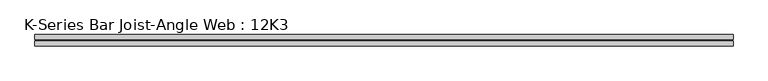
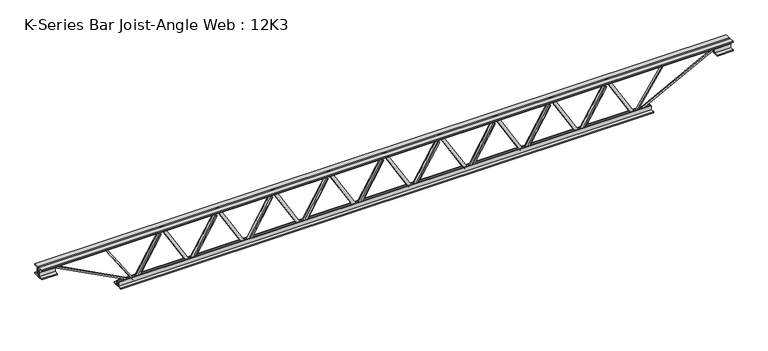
"""IFC4 building model written with IfcOpenShell, lengths in millimetres: beam geometry, K-Series Bar Joist-Angle Web : 12K3."""

import ifcopenshell
import ifcopenshell.guid

model = None  # the IFC model being written
_history = None  # IfcOwnerHistory: only IFC2X3 demands one
_inside = {}  # id of a spatial element -> (the spatial element, [elements in it])
_under = {}  # id of a project, library or spatial element -> (it, [spatial elements below it])
_declared = {}  # id of a project -> (the project, [libraries it declares])
_typed = {}  # id of a type object -> (the type object, [elements of that type])
_made_of = {}  # id of a material, layer set ... -> (it, [elements and type objects made of it])


def new_model(schema):
    """Start an empty IFC model of exactly this schema.

    Asked for "IFC4X3", IfcOpenShell would pick the latest addendum, in which some entities
    have other attributes; the version numbers below select the first issue.
    IFC2X3 requires an IfcOwnerHistory on every rooted entity: one is made here for all.
    """
    global model, _history
    if schema == "IFC4X3":
        model = ifcopenshell.file(schema_version=(4, 3, 0, 0))
    else:
        model = ifcopenshell.file(schema=schema)
    _inside.clear()
    _under.clear()
    _declared.clear()
    _typed.clear()
    _made_of.clear()
    _history = None
    if model.schema == "IFC2X3":
        org = make("IfcOrganization", Name="unknown")
        user = make(
            "IfcPersonAndOrganization",
            ThePerson=make("IfcPerson", FamilyName="unknown"),
            TheOrganization=org,
        )
        app = make(
            "IfcApplication",
            ApplicationDeveloper=org,
            Version="unknown",
            ApplicationFullName="unknown",
            ApplicationIdentifier="unknown",
        )
        _history = make(
            "IfcOwnerHistory",
            OwningUser=user,
            OwningApplication=app,
            ChangeAction="ADDED",
            CreationDate=0,
        )
    return model


def make(cls, **values):
    """One entity of the class cls with the attributes given. An attribute that is None is left unset."""
    return model.create_entity(
        cls, **{name: value for name, value in values.items() if value is not None}
    )


def rooted(cls, **values):
    """An entity with a GlobalId (a new one), such as an element, a storey or a relation."""
    return make(cls, GlobalId=ifcopenshell.guid.new(), OwnerHistory=_history, **values)


def si_unit(unit_type, name, prefix=None):
    """IfcSIUnit, for example si_unit("LENGTHUNIT", "METRE", prefix="MILLI")."""
    return make("IfcSIUnit", UnitType=unit_type, Prefix=prefix, Name=name)


def assignment(units):
    """IfcUnitAssignment: the units of a project."""
    return None if units is None else make("IfcUnitAssignment", Units=units)


def point(xyz):
    """IfcCartesianPoint."""
    return None if xyz is None else make("IfcCartesianPoint", Coordinates=xyz)


def direction(xyz):
    """IfcDirection."""
    return None if xyz is None else make("IfcDirection", DirectionRatios=xyz)


def frame(location, z_axis=None, x_axis=None):
    """IfcAxis2Placement3D, a coordinate frame: its origin and axes. An axis left out is left unset."""
    return make(
        "IfcAxis2Placement3D",
        Location=point(location),
        Axis=direction(z_axis),
        RefDirection=direction(x_axis),
    )


def origin():
    """The frame at (0, 0, 0) with its axes left unset."""
    return frame((0.0, 0.0, 0.0))


def place(relative_to, where):
    """IfcLocalPlacement: puts the frame where relative to a parent placement (None: the world)."""
    return make(
        "IfcLocalPlacement", PlacementRelTo=relative_to, RelativePlacement=where
    )


def context(
    kind, dimensions, precision=None, world=None, true_north=None, identifier=None
):
    """IfcGeometricRepresentationContext, for example the 3D "Model" context."""
    return make(
        "IfcGeometricRepresentationContext",
        ContextIdentifier=identifier,
        ContextType=kind,
        CoordinateSpaceDimension=dimensions,
        Precision=precision,
        WorldCoordinateSystem=world,
        TrueNorth=true_north,
    )


def project(units=None, contexts=None):
    """IfcProject with its units and contexts."""
    return rooted(
        "IfcProject",
        Name="project",
        RepresentationContexts=contexts,
        UnitsInContext=assignment(units),
    )


def spatial(cls, under=None, at=None, **own):
    """A site, building, storey or space (cls), placed at a placement, below another one or the project."""
    s = rooted(cls, ObjectPlacement=at, **own)
    if under is not None:
        _under.setdefault(under.id(), (under, []))[1].append(s)
    return s


def polyline(points):
    """IfcPolyline through the points."""
    return make("IfcPolyline", Points=[point(p) for p in points])


def outline(outer, holes=None, kind="AREA"):
    """IfcArbitraryClosedProfileDef: a profile drawn as a closed curve; with holes, ...WithVoids."""
    if holes is None:
        return make("IfcArbitraryClosedProfileDef", ProfileType=kind, OuterCurve=outer)
    return make(
        "IfcArbitraryProfileDefWithVoids",
        ProfileType=kind,
        OuterCurve=outer,
        InnerCurves=holes,
    )


def extrude(swept, where, along, depth):
    """IfcExtrudedAreaSolid: the profile swept, set in the frame where, extruded along a direction by depth."""
    return make(
        "IfcExtrudedAreaSolid",
        SweptArea=swept,
        Position=where,
        ExtrudedDirection=direction(along),
        Depth=depth,
    )


def faces_of(points, faces, orient=None, outer=None):
    """IfcFace entities. A face is a list of loops; a loop is a list of indices into points, from 0.

    orient and outer hold one flag for each loop. By default every Orientation is true, the
    first loop of a face is its IfcFaceOuterBound and the others are IfcFaceBound.
    """
    made = []
    for i, loops in enumerate(faces):
        bounds = []
        for j, loop in enumerate(loops):
            is_outer = j == 0 if outer is None else outer[i][j]
            bounds.append(
                make(
                    "IfcFaceOuterBound" if is_outer else "IfcFaceBound",
                    Bound=make("IfcPolyLoop", Polygon=[points[k] for k in loop]),
                    Orientation=True if orient is None else orient[i][j],
                )
            )
        made.append(make("IfcFace", Bounds=bounds))
    return made


def faceted_brep(points, faces, orient=None, outer=None, voids=None):
    """IfcFacetedBrep: a solid bounded by flat faces; with voids (closed shells), ...WithVoids."""
    shared = [point(p) for p in points]
    hull = make("IfcClosedShell", CfsFaces=faces_of(shared, faces, orient, outer))
    if voids is None:
        return make("IfcFacetedBrep", Outer=hull)
    return make(
        "IfcFacetedBrepWithVoids",
        Outer=hull,
        Voids=[
            make(cls, CfsFaces=faces_of(shared, fs, o, b)) for cls, fs, o, b in voids
        ],
    )


def shape(context_of_items, identifier, shape_type, items):
    """IfcShapeRepresentation: the items that make up one representation, for example the "Body"."""
    return make(
        "IfcShapeRepresentation",
        ContextOfItems=context_of_items,
        RepresentationIdentifier=identifier,
        RepresentationType=shape_type,
        Items=items,
    )


def source(mapping_origin, context_of_items, identifier, shape_type, items):
    """IfcRepresentationMap: a shape defined once, which mapped items show again and again."""
    return make(
        "IfcRepresentationMap",
        MappingOrigin=mapping_origin,
        MappedRepresentation=shape(context_of_items, identifier, shape_type, items),
    )


def transform(
    local_origin,
    x_axis=None,
    y_axis=None,
    z_axis=None,
    scale=None,
    scale2=None,
    scale3=None,
    uniform=True,
):
    """IfcCartesianTransformationOperator3D, or its non-uniform kind. x_axis, y_axis, z_axis: its Axis1, 2, 3."""
    if uniform:
        return make(
            "IfcCartesianTransformationOperator3D",
            Axis1=direction(x_axis),
            Axis2=direction(y_axis),
            LocalOrigin=point(local_origin),
            Scale=scale,
            Axis3=direction(z_axis),
        )
    return make(
        "IfcCartesianTransformationOperator3DnonUniform",
        Axis1=direction(x_axis),
        Axis2=direction(y_axis),
        LocalOrigin=point(local_origin),
        Scale=scale,
        Axis3=direction(z_axis),
        Scale2=scale2,
        Scale3=scale3,
    )


def mapped(mapping_source, mapping_target):
    """IfcMappedItem: shows the shape of a source again, moved by a transform."""
    return make(
        "IfcMappedItem", MappingSource=mapping_source, MappingTarget=mapping_target
    )


def made_of(thing, what):
    """Note that an element or type object is made of a material, layer set ...; save() writes the relation."""
    if what is not None:
        _made_of.setdefault(what.id(), (what, []))[1].append(thing)
    return thing


def element(
    cls,
    number,
    at=None,
    inside=None,
    cuts=None,
    type_object=None,
    material=None,
    context=None,
    identifier="Body",
    shape_type=None,
    held_by="IfcProductDefinitionShape",
    body=None,
    shapes=None,
    **own,
):
    """One element of the class cls, such as IfcWall. Its Tag is "e" and its number.

    at: its placement. inside: the storey or other place that contains it. cuts: it is an
    opening in that element (IfcRelVoidsElement). A single representation is given by context,
    identifier, shape_type and body (its items); several are given by shapes. held_by: the class
    of the entity that holds the representations. save() writes the other relations.
    """
    e = rooted(cls, Tag="e%d" % number, ObjectPlacement=at, **own)
    if body is not None:
        shapes = [shape(context, identifier, shape_type, body)]
    if shapes is not None:
        e.Representation = make(held_by, Representations=shapes)
    if inside is not None:
        _inside.setdefault(inside.id(), (inside, []))[1].append(e)
    if cuts is not None:
        rooted(
            "IfcRelVoidsElement", RelatingBuildingElement=cuts, RelatedOpeningElement=e
        )
    if type_object is not None:
        _typed.setdefault(type_object.id(), (type_object, []))[1].append(e)
    return made_of(e, material)


def aggregate(whole, parts):
    """IfcRelAggregates: a whole, such as a stair, and the parts it consists of."""
    return rooted("IfcRelAggregates", RelatingObject=whole, RelatedObjects=parts)


def save(model, path):
    """Write the relations noted so far, then the file.

    IfcRelAggregates (storeys below a building ...), IfcRelContainedInSpatialStructure (elements
    in a storey), IfcRelDefinesByType, IfcRelAssociatesMaterial and IfcRelDeclares: one each for
    every whole, place, type object, material and project.
    """
    for whole, parts in _under.values():
        aggregate(whole, parts)
    for where, things in _inside.values():
        rooted(
            "IfcRelContainedInSpatialStructure",
            RelatedElements=things,
            RelatingStructure=where,
        )
    for kind, things in _typed.values():
        rooted("IfcRelDefinesByType", RelatedObjects=things, RelatingType=kind)
    for what, things in _made_of.values():
        rooted("IfcRelAssociatesMaterial", RelatedObjects=things, RelatingMaterial=what)
    for by, libraries in _declared.values():
        rooted("IfcRelDeclares", RelatingContext=by, RelatedDefinitions=libraries)
    model.write(path)


def k_series_bar_joist_angle_web_12k3_e2e2536a(model_context):
    return source(origin(), model_context, "Body", "SolidModel", [
        extrude(outline(polyline([(-4.7625, 4.7625), (-4.7625, 0.0), (-17.4625, 0.0), (-17.4625, 4.7625), (-4.7625, 4.7625)])), frame((1212.1772472, 0.0, -114.3), z_axis=(-0.5087293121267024, 0.0, 0.8609265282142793), x_axis=(0.0, -1.0, 0.0)), (0.0, 0.0, 1.0), 265.5278848),
        extrude(outline(polyline([(-149.225, 1244.6), (-130.175, 1244.6), (-130.175, 1243.6852528), (149.225, 1078.5852528), (149.225, 1060.45), (130.175, 1060.45), (130.175, 1067.7147472), (-149.225, 1232.8147472), (-149.225, 1244.6)])), frame((0.0, 0.0, 0.0), z_axis=(0.0, 1.0, 0.0), x_axis=(0.0, 0.0, 1.0)), (0.0, 0.0, 1.0), 4.7625),
        faceted_brep([(889.0, 0.0, -130.175), (889.0, 0.0, -149.225), (889.0, -4.7625, -149.225), (889.0, -4.7625, -130.175), (889.9147472, 0.0, -130.175), (1055.0147472, 0.0, 149.225), (1073.15, 0.0, 149.225), (1073.15, 0.0, 130.175), (1065.8852528, 0.0, 130.175), (900.7852528, 0.0, -149.225), (900.7852528, -4.7625, -149.225), (921.4227528, -4.7625, -114.3), (917.3225902, -4.7625, -111.8771767), (1052.4044084, -4.7625, 116.7228233), (1056.504571, -4.7625, 114.3), (1065.8852528, -4.7625, 130.175), (1073.15, -4.7625, 130.175), (1073.15, -4.7625, 149.225), (1055.0147472, -4.7625, 149.225), (889.9147472, -4.7625, -130.175), (1056.504571, -17.4625, 114.3), (921.4227528, -17.4625, -114.3), (917.3225902, -17.4625, -111.8771767), (1052.4044084, -17.4625, 116.7228233)], [[[0, 1, 2, 3]], [[1, 0, 4, 5, 6, 7, 8, 9]], [[2, 1, 9, 10]], [[3, 2, 10, 11, 12, 13, 14, 15, 16, 17, 18, 19]], [[0, 3, 19, 4]], [[9, 8, 15, 14, 20, 21, 11, 10]], [[5, 4, 19, 18]], [[7, 6, 17, 16]], [[8, 7, 16, 15]], [[6, 5, 18, 17]], [[21, 22, 12, 11]], [[20, 14, 13, 23]], [[22, 21, 20, 23]], [[12, 22, 23, 13]]]),
        extrude(outline(polyline([(-4.7625, 4.7625), (-4.7625, 0.0), (-17.4625, 0.0), (-17.4625, 4.7625), (-4.7625, 4.7625)])), frame((856.5772472, 0.0, -114.3), z_axis=(-0.5087293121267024, 0.0, 0.8609265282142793), x_axis=(0.0, -1.0, 0.0)), (0.0, 0.0, 1.0), 265.5278848),
        extrude(outline(polyline([(-149.225, 889.0), (-130.175, 889.0), (-130.175, 888.0852528), (149.225, 722.9852528), (149.225, 704.85), (130.175, 704.85), (130.175, 712.1147472), (-149.225, 877.2147472), (-149.225, 889.0)])), frame((0.0, 0.0, 0.0), z_axis=(0.0, 1.0, 0.0), x_axis=(0.0, 0.0, 1.0)), (0.0, 0.0, 1.0), 4.7625),
        faceted_brep([(533.4, 0.0, -130.175), (533.4, 0.0, -149.225), (533.4, -4.7625, -149.225), (533.4, -4.7625, -130.175), (534.3147472, 0.0, -130.175), (699.4147472, 0.0, 149.225), (717.55, 0.0, 149.225), (717.55, 0.0, 130.175), (710.2852528, 0.0, 130.175), (545.1852528, 0.0, -149.225), (545.1852528, -4.7625, -149.225), (565.8227528, -4.7625, -114.3), (561.7225902, -4.7625, -111.8771767), (696.8044084, -4.7625, 116.7228233), (700.904571, -4.7625, 114.3), (710.2852528, -4.7625, 130.175), (717.55, -4.7625, 130.175), (717.55, -4.7625, 149.225), (699.4147472, -4.7625, 149.225), (534.3147472, -4.7625, -130.175), (700.904571, -17.4625, 114.3), (565.8227528, -17.4625, -114.3), (561.7225902, -17.4625, -111.8771767), (696.8044084, -17.4625, 116.7228233)], [[[0, 1, 2, 3]], [[1, 0, 4, 5, 6, 7, 8, 9]], [[2, 1, 9, 10]], [[3, 2, 10, 11, 12, 13, 14, 15, 16, 17, 18, 19]], [[0, 3, 19, 4]], [[9, 8, 15, 14, 20, 21, 11, 10]], [[5, 4, 19, 18]], [[7, 6, 17, 16]], [[8, 7, 16, 15]], [[6, 5, 18, 17]], [[21, 22, 12, 11]], [[20, 14, 13, 23]], [[22, 21, 20, 23]], [[12, 22, 23, 13]]]),
        extrude(outline(polyline([(-4.7625, 4.7625), (-4.7625, 0.0), (-17.4625, 0.0), (-17.4625, 4.7625), (-4.7625, 4.7625)])), frame((500.9772472, 0.0, -114.3), z_axis=(-0.5087293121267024, 0.0, 0.8609265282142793), x_axis=(0.0, -1.0, 0.0)), (0.0, 0.0, 1.0), 265.5278848),
        extrude(outline(polyline([(-149.225, 533.4), (-130.175, 533.4), (-130.175, 532.4852528), (149.225, 367.3852528), (149.225, 349.25), (130.175, 349.25), (130.175, 356.5147472), (-149.225, 521.6147472), (-149.225, 533.4)])), frame((0.0, 0.0, 0.0), z_axis=(0.0, 1.0, 0.0), x_axis=(0.0, 0.0, 1.0)), (0.0, 0.0, 1.0), 4.7625),
        faceted_brep([(177.8, 0.0, -130.175), (177.8, 0.0, -149.225), (177.8, -4.7625, -149.225), (177.8, -4.7625, -130.175), (178.7147472, 0.0, -130.175), (343.8147472, 0.0, 149.225), (361.95, 0.0, 149.225), (361.95, 0.0, 130.175), (354.6852528, 0.0, 130.175), (189.5852528, 0.0, -149.225), (189.5852528, -4.7625, -149.225), (210.2227528, -4.7625, -114.3), (206.1225902, -4.7625, -111.8771767), (341.2044084, -4.7625, 116.7228233), (345.304571, -4.7625, 114.3), (354.6852528, -4.7625, 130.175), (361.95, -4.7625, 130.175), (361.95, -4.7625, 149.225), (343.8147472, -4.7625, 149.225), (178.7147472, -4.7625, -130.175), (345.304571, -17.4625, 114.3), (210.2227528, -17.4625, -114.3), (206.1225902, -17.4625, -111.8771767), (341.2044084, -17.4625, 116.7228233)], [[[0, 1, 2, 3]], [[1, 0, 4, 5, 6, 7, 8, 9]], [[2, 1, 9, 10]], [[3, 2, 10, 11, 12, 13, 14, 15, 16, 17, 18, 19]], [[0, 3, 19, 4]], [[9, 8, 15, 14, 20, 21, 11, 10]], [[5, 4, 19, 18]], [[7, 6, 17, 16]], [[8, 7, 16, 15]], [[6, 5, 18, 17]], [[21, 22, 12, 11]], [[20, 14, 13, 23]], [[22, 21, 20, 23]], [[12, 22, 23, 13]]]),
        extrude(outline(polyline([(-4.7625, 4.7625), (-4.7625, 0.0), (-17.4625, 0.0), (-17.4625, 4.7625), (-4.7625, 4.7625)])), frame((145.3772472, 0.0, -114.3), z_axis=(-0.5087293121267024, 0.0, 0.8609265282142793), x_axis=(0.0, -1.0, 0.0)), (0.0, 0.0, 1.0), 265.5278848),
        extrude(outline(polyline([(-149.225, 177.8), (-130.175, 177.8), (-130.175, 176.8852528), (149.225, 11.7852528), (149.225, -6.35), (130.175, -6.35), (130.175, 0.9147472), (-149.225, 166.0147472), (-149.225, 177.8)])), frame((0.0, 0.0, 0.0), z_axis=(0.0, 1.0, 0.0), x_axis=(0.0, 0.0, 1.0)), (0.0, 0.0, 1.0), 4.7625),
        faceted_brep([(-177.8, 0.0, -130.175), (-177.8, 0.0, -149.225), (-177.8, -4.7625, -149.225), (-177.8, -4.7625, -130.175), (-176.8852528, 0.0, -130.175), (-11.7852528, 0.0, 149.225), (6.35, 0.0, 149.225), (6.35, 0.0, 130.175), (-0.9147472, 0.0, 130.175), (-166.0147472, 0.0, -149.225), (-166.0147472, -4.7625, -149.225), (-145.3772472, -4.7625, -114.3), (-149.4774098, -4.7625, -111.8771767), (-14.3955916, -4.7625, 116.7228233), (-10.295429, -4.7625, 114.3), (-0.9147472, -4.7625, 130.175), (6.35, -4.7625, 130.175), (6.35, -4.7625, 149.225), (-11.7852528, -4.7625, 149.225), (-176.8852528, -4.7625, -130.175), (-10.295429, -17.4625, 114.3), (-145.3772472, -17.4625, -114.3), (-149.4774098, -17.4625, -111.8771767), (-14.3955916, -17.4625, 116.7228233)], [[[0, 1, 2, 3]], [[1, 0, 4, 5, 6, 7, 8, 9]], [[2, 1, 9, 10]], [[3, 2, 10, 11, 12, 13, 14, 15, 16, 17, 18, 19]], [[0, 3, 19, 4]], [[9, 8, 15, 14, 20, 21, 11, 10]], [[5, 4, 19, 18]], [[7, 6, 17, 16]], [[8, 7, 16, 15]], [[6, 5, 18, 17]], [[21, 22, 12, 11]], [[20, 14, 13, 23]], [[22, 21, 20, 23]], [[12, 22, 23, 13]]]),
        extrude(outline(polyline([(-4.7625, 4.7625), (-4.7625, 0.0), (-17.4625, 0.0), (-17.4625, 4.7625), (-4.7625, 4.7625)])), frame((-210.2227528, 0.0, -114.3), z_axis=(-0.5087293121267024, 0.0, 0.8609265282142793), x_axis=(0.0, -1.0, 0.0)), (0.0, 0.0, 1.0), 265.5278848),
        extrude(outline(polyline([(-149.225, -177.8), (-130.175, -177.8), (-130.175, -178.7147472), (149.225, -343.8147472), (149.225, -361.95), (130.175, -361.95), (130.175, -354.6852528), (-149.225, -189.5852528), (-149.225, -177.8)])), frame((0.0, 0.0, 0.0), z_axis=(0.0, 1.0, 0.0), x_axis=(0.0, 0.0, 1.0)), (0.0, 0.0, 1.0), 4.7625),
        faceted_brep([(-533.4, 0.0, -130.175), (-533.4, 0.0, -149.225), (-533.4, -4.7625, -149.225), (-533.4, -4.7625, -130.175), (-532.4852528, 0.0, -130.175), (-367.3852528, 0.0, 149.225), (-349.25, 0.0, 149.225), (-349.25, 0.0, 130.175), (-356.5147472, 0.0, 130.175), (-521.6147472, 0.0, -149.225), (-521.6147472, -4.7625, -149.225), (-500.9772472, -4.7625, -114.3), (-505.0774098, -4.7625, -111.8771767), (-369.9955916, -4.7625, 116.7228233), (-365.895429, -4.7625, 114.3), (-356.5147472, -4.7625, 130.175), (-349.25, -4.7625, 130.175), (-349.25, -4.7625, 149.225), (-367.3852528, -4.7625, 149.225), (-532.4852528, -4.7625, -130.175), (-365.895429, -17.4625, 114.3), (-500.9772472, -17.4625, -114.3), (-505.0774098, -17.4625, -111.8771767), (-369.9955916, -17.4625, 116.7228233)], [[[0, 1, 2, 3]], [[1, 0, 4, 5, 6, 7, 8, 9]], [[2, 1, 9, 10]], [[3, 2, 10, 11, 12, 13, 14, 15, 16, 17, 18, 19]], [[0, 3, 19, 4]], [[9, 8, 15, 14, 20, 21, 11, 10]], [[5, 4, 19, 18]], [[7, 6, 17, 16]], [[8, 7, 16, 15]], [[6, 5, 18, 17]], [[21, 22, 12, 11]], [[20, 14, 13, 23]], [[22, 21, 20, 23]], [[12, 22, 23, 13]]]),
        extrude(outline(polyline([(-4.7625, 4.7625), (-4.7625, 0.0), (-17.4625, 0.0), (-17.4625, 4.7625), (-4.7625, 4.7625)])), frame((-565.8227528, 0.0, -114.3), z_axis=(-0.5087293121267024, 0.0, 0.8609265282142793), x_axis=(0.0, -1.0, 0.0)), (0.0, 0.0, 1.0), 265.5278848),
        extrude(outline(polyline([(-149.225, -533.4), (-130.175, -533.4), (-130.175, -534.3147472), (149.225, -699.4147472), (149.225, -717.55), (130.175, -717.55), (130.175, -710.2852528), (-149.225, -545.1852528), (-149.225, -533.4)])), frame((0.0, 0.0, 0.0), z_axis=(0.0, 1.0, 0.0), x_axis=(0.0, 0.0, 1.0)), (0.0, 0.0, 1.0), 4.7625),
        faceted_brep([(-889.0, 0.0, -130.175), (-889.0, 0.0, -149.225), (-889.0, -4.7625, -149.225), (-889.0, -4.7625, -130.175), (-888.0852528, 0.0, -130.175), (-722.9852528, 0.0, 149.225), (-704.85, 0.0, 149.225), (-704.85, 0.0, 130.175), (-712.1147472, 0.0, 130.175), (-877.2147472, 0.0, -149.225), (-877.2147472, -4.7625, -149.225), (-856.5772472, -4.7625, -114.3), (-860.6774098, -4.7625, -111.8771767), (-725.5955916, -4.7625, 116.7228233), (-721.495429, -4.7625, 114.3), (-712.1147472, -4.7625, 130.175), (-704.85, -4.7625, 130.175), (-704.85, -4.7625, 149.225), (-722.9852528, -4.7625, 149.225), (-888.0852528, -4.7625, -130.175), (-721.495429, -17.4625, 114.3), (-856.5772472, -17.4625, -114.3), (-860.6774098, -17.4625, -111.8771767), (-725.5955916, -17.4625, 116.7228233)], [[[0, 1, 2, 3]], [[1, 0, 4, 5, 6, 7, 8, 9]], [[2, 1, 9, 10]], [[3, 2, 10, 11, 12, 13, 14, 15, 16, 17, 18, 19]], [[0, 3, 19, 4]], [[9, 8, 15, 14, 20, 21, 11, 10]], [[5, 4, 19, 18]], [[7, 6, 17, 16]], [[8, 7, 16, 15]], [[6, 5, 18, 17]], [[21, 22, 12, 11]], [[20, 14, 13, 23]], [[22, 21, 20, 23]], [[12, 22, 23, 13]]]),
        extrude(outline(polyline([(-4.7625, 4.7625), (-4.7625, 0.0), (-17.4625, 0.0), (-17.4625, 4.7625), (-4.7625, 4.7625)])), frame((-921.4227528, 0.0, -114.3), z_axis=(-0.5087293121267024, 0.0, 0.8609265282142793), x_axis=(0.0, -1.0, 0.0)), (0.0, 0.0, 1.0), 265.5278848),
        extrude(outline(polyline([(-149.225, -889.0), (-130.175, -889.0), (-130.175, -889.9147472), (149.225, -1055.0147472), (149.225, -1073.15), (130.175, -1073.15), (130.175, -1065.8852528), (-149.225, -900.7852528), (-149.225, -889.0)])), frame((0.0, 0.0, 0.0), z_axis=(0.0, 1.0, 0.0), x_axis=(0.0, 0.0, 1.0)), (0.0, 0.0, 1.0), 4.7625),
        faceted_brep([(-1244.6, 0.0, -130.175), (-1244.6, 0.0, -149.225), (-1244.6, -4.7625, -149.225), (-1244.6, -4.7625, -130.175), (-1243.6852528, 0.0, -130.175), (-1078.5852528, 0.0, 149.225), (-1060.45, 0.0, 149.225), (-1060.45, 0.0, 130.175), (-1067.7147472, 0.0, 130.175), (-1232.8147472, 0.0, -149.225), (-1232.8147472, -4.7625, -149.225), (-1212.1772472, -4.7625, -114.3), (-1216.2774098, -4.7625, -111.8771767), (-1081.1955916, -4.7625, 116.7228233), (-1077.095429, -4.7625, 114.3), (-1067.7147472, -4.7625, 130.175), (-1060.45, -4.7625, 130.175), (-1060.45, -4.7625, 149.225), (-1078.5852528, -4.7625, 149.225), (-1243.6852528, -4.7625, -130.175), (-1077.095429, -17.4625, 114.3), (-1212.1772472, -17.4625, -114.3), (-1216.2774098, -17.4625, -111.8771767), (-1081.1955916, -17.4625, 116.7228233)], [[[0, 1, 2, 3]], [[1, 0, 4, 5, 6, 7, 8, 9]], [[2, 1, 9, 10]], [[3, 2, 10, 11, 12, 13, 14, 15, 16, 17, 18, 19]], [[0, 3, 19, 4]], [[9, 8, 15, 14, 20, 21, 11, 10]], [[5, 4, 19, 18]], [[7, 6, 17, 16]], [[8, 7, 16, 15]], [[6, 5, 18, 17]], [[21, 22, 12, 11]], [[20, 14, 13, 23]], [[22, 21, 20, 23]], [[12, 22, 23, 13]]]),
        extrude(outline(polyline([(-4.7625, 4.7625), (-4.7625, 0.0), (-17.4625, 0.0), (-17.4625, 4.7625), (-4.7625, 4.7625)])), frame((1567.7772472, 0.0, -114.3), z_axis=(-0.5087293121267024, 0.0, 0.8609265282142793), x_axis=(0.0, -1.0, 0.0)), (0.0, 0.0, 1.0), 265.5278848),
        extrude(outline(polyline([(-149.225, 1600.2), (-130.175, 1600.2), (-130.175, 1599.2852528), (149.225, 1434.1852528), (149.225, 1416.05), (130.175, 1416.05), (130.175, 1423.3147472), (-149.225, 1588.4147472), (-149.225, 1600.2)])), frame((0.0, 0.0, 0.0), z_axis=(0.0, 1.0, 0.0), x_axis=(0.0, 0.0, 1.0)), (0.0, 0.0, 1.0), 4.7625),
        faceted_brep([(1244.6, 0.0, -130.175), (1244.6, 0.0, -149.225), (1244.6, -4.7625, -149.225), (1244.6, -4.7625, -130.175), (1245.5147472, 0.0, -130.175), (1410.6147472, 0.0, 149.225), (1428.75, 0.0, 149.225), (1428.75, 0.0, 130.175), (1421.4852528, 0.0, 130.175), (1256.3852528, 0.0, -149.225), (1256.3852528, -4.7625, -149.225), (1277.0227528, -4.7625, -114.3), (1272.9225902, -4.7625, -111.8771767), (1408.0044084, -4.7625, 116.7228233), (1412.104571, -4.7625, 114.3), (1421.4852528, -4.7625, 130.175), (1428.75, -4.7625, 130.175), (1428.75, -4.7625, 149.225), (1410.6147472, -4.7625, 149.225), (1245.5147472, -4.7625, -130.175), (1412.104571, -17.4625, 114.3), (1277.0227528, -17.4625, -114.3), (1272.9225902, -17.4625, -111.8771767), (1408.0044084, -17.4625, 116.7228233)], [[[0, 1, 2, 3]], [[1, 0, 4, 5, 6, 7, 8, 9]], [[2, 1, 9, 10]], [[3, 2, 10, 11, 12, 13, 14, 15, 16, 17, 18, 19]], [[0, 3, 19, 4]], [[9, 8, 15, 14, 20, 21, 11, 10]], [[5, 4, 19, 18]], [[7, 6, 17, 16]], [[8, 7, 16, 15]], [[6, 5, 18, 17]], [[21, 22, 12, 11]], [[20, 14, 13, 23]], [[22, 21, 20, 23]], [[12, 22, 23, 13]]]),
        extrude(outline(polyline([(-4.7625, 4.7625), (-4.7625, 0.0), (-17.4625, 0.0), (-17.4625, 4.7625), (-4.7625, 4.7625)])), frame((-1277.0227528, 0.0, -114.3), z_axis=(-0.5087293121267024, 0.0, 0.8609265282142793), x_axis=(0.0, -1.0, 0.0)), (0.0, 0.0, 1.0), 265.5278848),
        extrude(outline(polyline([(-149.225, -1244.6), (-130.175, -1244.6), (-130.175, -1245.5147472), (149.225, -1410.6147472), (149.225, -1428.75), (130.175, -1428.75), (130.175, -1421.4852528), (-149.225, -1256.3852528), (-149.225, -1244.6)])), frame((0.0, 0.0, 0.0), z_axis=(0.0, 1.0, 0.0), x_axis=(0.0, 0.0, 1.0)), (0.0, 0.0, 1.0), 4.7625),
        faceted_brep([(-1600.2, 0.0, -130.175), (-1600.2, 0.0, -149.225), (-1600.2, -4.7625, -149.225), (-1600.2, -4.7625, -130.175), (-1599.2852528, 0.0, -130.175), (-1434.1852528, 0.0, 149.225), (-1416.05, 0.0, 149.225), (-1416.05, 0.0, 130.175), (-1423.3147472, 0.0, 130.175), (-1588.4147472, 0.0, -149.225), (-1588.4147472, -4.7625, -149.225), (-1567.7772472, -4.7625, -114.3), (-1571.8774098, -4.7625, -111.8771767), (-1436.7955916, -4.7625, 116.7228233), (-1432.695429, -4.7625, 114.3), (-1423.3147472, -4.7625, 130.175), (-1416.05, -4.7625, 130.175), (-1416.05, -4.7625, 149.225), (-1434.1852528, -4.7625, 149.225), (-1599.2852528, -4.7625, -130.175), (-1432.695429, -17.4625, 114.3), (-1567.7772472, -17.4625, -114.3), (-1571.8774098, -17.4625, -111.8771767), (-1436.7955916, -17.4625, 116.7228233)], [[[0, 1, 2, 3]], [[1, 0, 4, 5, 6, 7, 8, 9]], [[2, 1, 9, 10]], [[3, 2, 10, 11, 12, 13, 14, 15, 16, 17, 18, 19]], [[0, 3, 19, 4]], [[9, 8, 15, 14, 20, 21, 11, 10]], [[5, 4, 19, 18]], [[7, 6, 17, 16]], [[8, 7, 16, 15]], [[6, 5, 18, 17]], [[21, 22, 12, 11]], [[20, 14, 13, 23]], [[22, 21, 20, 23]], [[12, 22, 23, 13]]]),
        extrude(outline(polyline([(4.7625, 152.4), (36.5125, 152.4), (36.5125, 146.05), (11.1125, 146.05), (11.1125, 120.65), (4.7625, 120.65), (4.7625, 152.4)])), frame((-2209.8, 0.0, 0.0), z_axis=(1.0, 0.0, 0.0), x_axis=(0.0, 1.0, 0.0)), (0.0, 0.0, 1.0), 4419.6),
        extrude(outline(polyline([(-4.7625, 152.4), (-4.7625, 120.65), (-11.1125, 120.65), (-11.1125, 146.05), (-36.5125, 146.05), (-36.5125, 152.4), (-4.7625, 152.4)])), frame((-2209.8, 0.0, 0.0), z_axis=(1.0, 0.0, 0.0), x_axis=(0.0, 1.0, 0.0)), (0.0, 0.0, 1.0), 4419.6),
        extrude(outline(polyline([(-4.7625, 88.9), (-36.5125, 88.9), (-36.5125, 95.25), (-11.1125, 95.25), (-11.1125, 120.65), (-4.7625, 120.65), (-4.7625, 88.9)])), frame((-2209.8, 0.0, 0.0), z_axis=(1.0, 0.0, 0.0), x_axis=(0.0, 1.0, 0.0)), (0.0, 0.0, 1.0), 101.6),
        extrude(outline(polyline([(36.5125, 88.9), (4.7625, 88.9), (4.7625, 120.65), (11.1125, 120.65), (11.1125, 95.25), (36.5125, 95.25), (36.5125, 88.9)])), frame((-2209.8, 0.0, 0.0), z_axis=(1.0, 0.0, 0.0), x_axis=(0.0, 1.0, 0.0)), (0.0, 0.0, 1.0), 101.6),
        extrude(outline(polyline([(4.7625, 88.9), (4.7625, 120.65), (11.1125, 120.65), (11.1125, 95.25), (36.5125, 95.25), (36.5125, 88.9), (4.7625, 88.9)])), frame((2108.2, 0.0, 0.0), z_axis=(1.0, 0.0, 0.0), x_axis=(0.0, 1.0, 0.0)), (0.0, 0.0, 1.0), 101.6),
        extrude(outline(polyline([(-4.7625, 88.9), (-36.5125, 88.9), (-36.5125, 95.25), (-11.1125, 95.25), (-11.1125, 120.65), (-4.7625, 120.65), (-4.7625, 88.9)])), frame((2108.2, 0.0, 0.0), z_axis=(1.0, 0.0, 0.0), x_axis=(0.0, 1.0, 0.0)), (0.0, 0.0, 1.0), 101.6),
        extrude(outline(polyline([(4.7625, -152.4), (4.7625, -120.65), (11.1125, -120.65), (11.1125, -146.05), (36.5125, -146.05), (36.5125, -152.4), (4.7625, -152.4)])), frame((-1701.8, 0.0, 0.0), z_axis=(1.0, 0.0, 0.0), x_axis=(0.0, 1.0, 0.0)), (0.0, 0.0, 1.0), 3403.6),
        extrude(outline(polyline([(-4.7625, -152.4), (-36.5125, -152.4), (-36.5125, -146.05), (-11.1125, -146.05), (-11.1125, -120.65), (-4.7625, -120.65), (-4.7625, -152.4)])), frame((-1701.8, 0.0, 0.0), z_axis=(1.0, 0.0, 0.0), x_axis=(0.0, 1.0, 0.0)), (0.0, 0.0, 1.0), 3403.6),
        extrude(outline(polyline([(4.7625, 4.7625), (4.7625, -4.7625), (-4.7625, -4.7625), (-4.7625, 4.7625), (4.7625, 4.7625)])), frame((1600.2, 0.0, -146.05), z_axis=(0.5547001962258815, 0.0, 0.8320502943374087), x_axis=(0.0, -1.0, 0.0)), (0.0, 0.0, 1.0), 320.5335084),
        extrude(outline(polyline([(4.7625, 4.7625), (4.7625, -4.7625), (-4.7625, -4.7625), (-4.7625, 4.7625), (4.7625, 4.7625)])), frame((-1600.2, 0.0, -146.05), z_axis=(-0.5547001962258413, 0.0, 0.8320502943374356), x_axis=(0.0, -1.0, 0.0)), (0.0, 0.0, 1.0), 320.5335084),
        extrude(outline(polyline([(0.0, -9.525), (0.0, 0.0), (573.7533355, 0.0), (573.7533355, -9.525), (0.0, -9.525)])), frame((2110.4137714, -4.7625, 116.4332925), z_axis=(-0.46483389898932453, 0.0, 0.8853979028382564), x_axis=(-0.8853979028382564, 0.0, -0.46483389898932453)), (0.0, 0.0, 1.0), 9.525),
        extrude(outline(polyline([(0.0, -9.525), (0.0, 0.0), (573.7533355, 0.0), (573.7533355, -9.525), (0.0, -9.525)])), frame((-2110.4137714, 4.7625, 116.4332925), z_axis=(0.46483389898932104, 0.0, 0.8853979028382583), x_axis=(0.8853979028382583, 0.0, -0.46483389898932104)), (0.0, 0.0, 1.0), 9.525),
    ])


if __name__ == "__main__":
    model = new_model("IFC4")
    model_context = context("Model", 3, world=origin())
    ifc_project = project(units=[si_unit("LENGTHUNIT", "METRE", prefix="MILLI")], contexts=[model_context])
    site = spatial("IfcSite", under=ifc_project)
    building = spatial("IfcBuilding", under=site)
    placement = place(None, origin())
    k_series_bar_joist_angle_web_12k3_shape = k_series_bar_joist_angle_web_12k3_e2e2536a(model_context)
    element("IfcBeam", 1, ObjectType="K-Series Bar Joist-Angle Web : 12K3", at=placement, inside=building, context=model_context, shape_type="MappedRepresentation", body=[
        mapped(k_series_bar_joist_angle_web_12k3_shape, transform((0.0, 0.0, 0.0), x_axis=(1.0, 0.0, 0.0), y_axis=(0.0, 1.0, 0.0), z_axis=(0.0, 0.0, 1.0))),
    ])
    save(model, "model.ifc")
